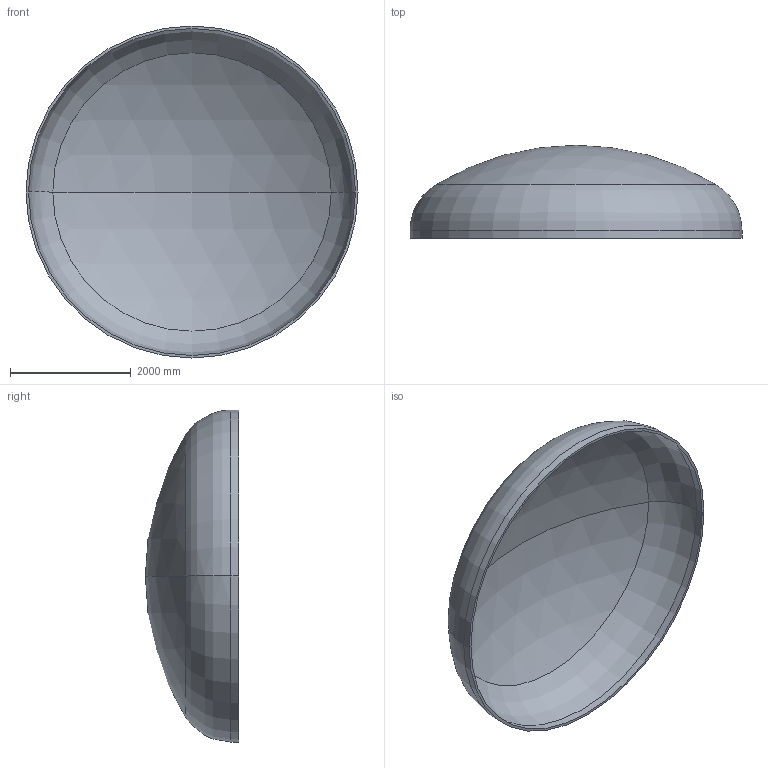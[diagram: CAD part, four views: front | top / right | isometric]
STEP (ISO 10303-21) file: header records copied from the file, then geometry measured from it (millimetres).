
FILE_DESCRIPTION (( 'STEP AP203' ), '1' );
FILE_NAME ('DIN 28013 Korbbogenform_-_Boden DIN 28013 - 5500 x 130 - I - s=42.step', '2016-07-04T10:34:09', ( '' ), ( '' ), 'SwSTEP 2.0', 'SolidWorks 2013', '' );
FILE_SCHEMA (( 'CONFIG_CONTROL_DESIGN' ));
Length unit declared in the file: millimetre
Products named in the file (1): DIN 28013 Korbbogenform_-_Boden DIN 28013 - 5500 x 130 - I - s=42
Bounding box: 5500 x 1544.25 x 5500 mm (x, y, z)
Volume: 1461122277.4 mm3; surface area: 70301085.4 mm2
Topology: 1 solids, 1 shells, 13 faces, 24 edges, 14 vertices
Faces by surface type: torus 4, cylinder 4, sphere 4, plane 1
Entity records: 407 total; most frequent: DIRECTION 72, CARTESIAN_POINT 52, ORIENTED_EDGE 48, AXIS2_PLACEMENT_3D 34, EDGE_CURVE 24, CIRCLE 20, EDGE_LOOP 14, VERTEX_POINT 14
